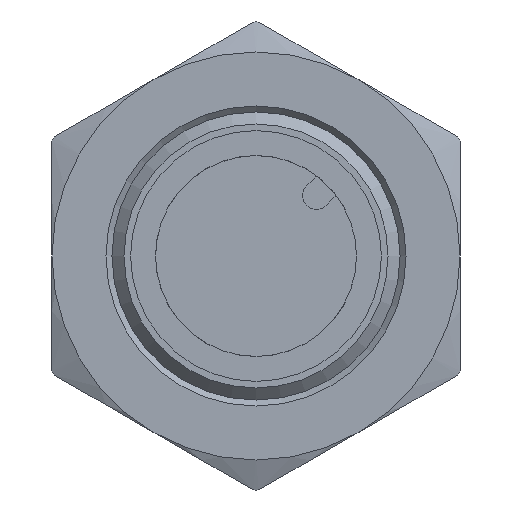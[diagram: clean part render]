
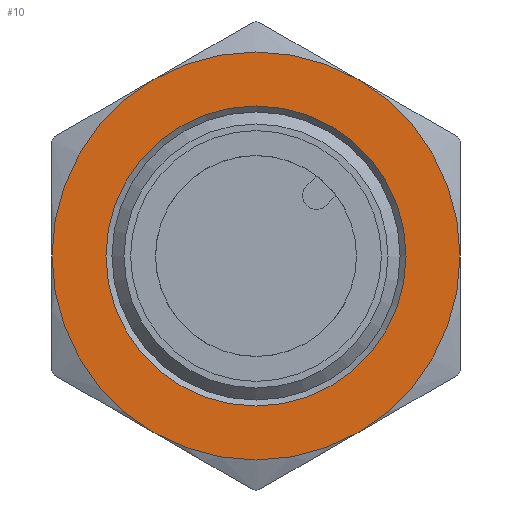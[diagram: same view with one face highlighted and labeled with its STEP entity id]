
A CAD part, front view. The second image highlights one B-rep face of the part: STEP entity #10.
In plain terms, the highlighted planar face has unit normal (0, -1, 0).
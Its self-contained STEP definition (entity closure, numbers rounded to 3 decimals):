
#10 = ADVANCED_FACE ( 'NONE', ( #697, #1647 ), #396, .T. ) ;
#40 = DIRECTION ( 'NONE',  ( 1., 0., 0. ) ) ;
#53 = DIRECTION ( 'NONE',  ( 1., 0., 0. ) ) ;
#83 = CARTESIAN_POINT ( 'NONE',  ( 0., 39.439, 0. ) ) ;
#101 = DIRECTION ( 'NONE',  ( 0., 1., 0. ) ) ;
#170 = CIRCLE ( 'NONE', #274, 8.5 ) ;
#200 = CIRCLE ( 'NONE', #866, 6.25 ) ;
#211 = DIRECTION ( 'NONE',  ( 0., 1., 0. ) ) ;
#217 = VERTEX_POINT ( 'NONE', #288 ) ;
#221 = ORIENTED_EDGE ( 'NONE', *, *, #1624, .F. ) ;
#239 = AXIS2_PLACEMENT_3D ( 'NONE', #919, #1102, #1684 ) ;
#274 = AXIS2_PLACEMENT_3D ( 'NONE', #403, #211, #602 ) ;
#288 = CARTESIAN_POINT ( 'NONE',  ( 4.25, 39.439, 7.361 ) ) ;
#396 = PLANE ( 'NONE',  #2534 ) ;
#403 = CARTESIAN_POINT ( 'NONE',  ( 0., 39.439, 0. ) ) ;
#462 = VERTEX_POINT ( 'NONE', #862 ) ;
#545 = EDGE_CURVE ( 'NONE', #960, #1576, #1030, .T. ) ;
#546 = CARTESIAN_POINT ( 'NONE',  ( 0., 39.439, -6.25 ) ) ;
#590 = CARTESIAN_POINT ( 'NONE',  ( 8.5, 39.439, 0. ) ) ;
#602 = DIRECTION ( 'NONE',  ( 1., 0., 0. ) ) ;
#613 = ORIENTED_EDGE ( 'NONE', *, *, #1891, .F. ) ;
#637 = CARTESIAN_POINT ( 'NONE',  ( 0., 39.439, 0. ) ) ;
#669 = AXIS2_PLACEMENT_3D ( 'NONE', #83, #101, #2082 ) ;
#697 = FACE_OUTER_BOUND ( 'NONE', #984, .T. ) ;
#798 = DIRECTION ( 'NONE',  ( 0., -1., 0. ) ) ;
#838 = DIRECTION ( 'NONE',  ( 0., 1., 0. ) ) ;
#862 = CARTESIAN_POINT ( 'NONE',  ( -4.25, 39.439, 7.361 ) ) ;
#866 = AXIS2_PLACEMENT_3D ( 'NONE', #1773, #1987, #1507 ) ;
#875 = AXIS2_PLACEMENT_3D ( 'NONE', #1803, #1614, #40 ) ;
#903 = ORIENTED_EDGE ( 'NONE', *, *, #1838, .F. ) ;
#919 = CARTESIAN_POINT ( 'NONE',  ( 0., 39.439, 0. ) ) ;
#953 = CARTESIAN_POINT ( 'NONE',  ( 0., 39.439, 0. ) ) ;
#960 = VERTEX_POINT ( 'NONE', #590 ) ;
#984 = EDGE_LOOP ( 'NONE', ( #221, #613, #903, #1159, #2489, #2431 ) ) ;
#989 = VERTEX_POINT ( 'NONE', #546 ) ;
#1028 = EDGE_CURVE ( 'NONE', #217, #960, #1140, .T. ) ;
#1030 = CIRCLE ( 'NONE', #875, 8.5 ) ;
#1043 = CARTESIAN_POINT ( 'NONE',  ( 4.25, 39.439, -7.361 ) ) ;
#1102 = DIRECTION ( 'NONE',  ( 0., 1., 0. ) ) ;
#1140 = CIRCLE ( 'NONE', #239, 8.5 ) ;
#1159 = ORIENTED_EDGE ( 'NONE', *, *, #545, .F. ) ;
#1222 = AXIS2_PLACEMENT_3D ( 'NONE', #637, #838, #53 ) ;
#1255 = EDGE_LOOP ( 'NONE', ( #1387 ) ) ;
#1339 = CARTESIAN_POINT ( 'NONE',  ( -4.25, 39.439, -7.361 ) ) ;
#1387 = ORIENTED_EDGE ( 'NONE', *, *, #2497, .F. ) ;
#1421 = CIRCLE ( 'NONE', #1222, 8.5 ) ;
#1507 = DIRECTION ( 'NONE',  ( 0., 0., -1. ) ) ;
#1576 = VERTEX_POINT ( 'NONE', #1043 ) ;
#1587 = CIRCLE ( 'NONE', #669, 8.5 ) ;
#1590 = CIRCLE ( 'NONE', #1679, 8.5 ) ;
#1605 = VERTEX_POINT ( 'NONE', #1339 ) ;
#1614 = DIRECTION ( 'NONE',  ( 0., 1., 0. ) ) ;
#1624 = EDGE_CURVE ( 'NONE', #2071, #462, #1590, .T. ) ;
#1647 = FACE_BOUND ( 'NONE', #1255, .T. ) ;
#1679 = AXIS2_PLACEMENT_3D ( 'NONE', #953, #2349, #2167 ) ;
#1684 = DIRECTION ( 'NONE',  ( 1., 0., 0. ) ) ;
#1773 = CARTESIAN_POINT ( 'NONE',  ( 0., 39.439, 0. ) ) ;
#1803 = CARTESIAN_POINT ( 'NONE',  ( 0., 39.439, 0. ) ) ;
#1838 = EDGE_CURVE ( 'NONE', #1576, #1605, #170, .T. ) ;
#1891 = EDGE_CURVE ( 'NONE', #1605, #2071, #1421, .T. ) ;
#1987 = DIRECTION ( 'NONE',  ( 0., -1., 0. ) ) ;
#2060 = EDGE_CURVE ( 'NONE', #462, #217, #1587, .T. ) ;
#2071 = VERTEX_POINT ( 'NONE', #2471 ) ;
#2082 = DIRECTION ( 'NONE',  ( 1., 0., 0. ) ) ;
#2167 = DIRECTION ( 'NONE',  ( 1., 0., 0. ) ) ;
#2349 = DIRECTION ( 'NONE',  ( 0., 1., 0. ) ) ;
#2359 = CARTESIAN_POINT ( 'NONE',  ( -7., 39.439, 0. ) ) ;
#2373 = DIRECTION ( 'NONE',  ( 0., 0., -1. ) ) ;
#2431 = ORIENTED_EDGE ( 'NONE', *, *, #2060, .F. ) ;
#2471 = CARTESIAN_POINT ( 'NONE',  ( -8.5, 39.439, 0. ) ) ;
#2489 = ORIENTED_EDGE ( 'NONE', *, *, #1028, .F. ) ;
#2497 = EDGE_CURVE ( 'NONE', #989, #989, #200, .T. ) ;
#2534 = AXIS2_PLACEMENT_3D ( 'NONE', #2359, #798, #2373 ) ;
